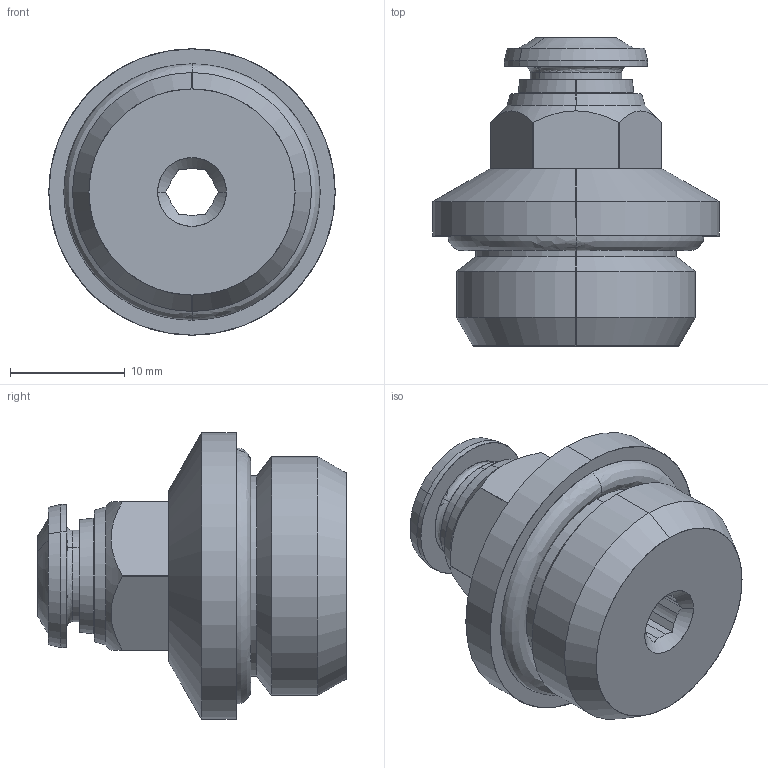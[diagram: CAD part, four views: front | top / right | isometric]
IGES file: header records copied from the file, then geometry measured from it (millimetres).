
Start section: SolidWorks IGES file using analytic representation for surfaces
Global section: file name: K:\Disegni Esecutivi\SERIE 50000\ASSIEMI_50000\50020\IGES e STEP new size\5002000028.IGS; native system: SolidWorks 2020; preprocessor: SolidWorks 2020; author: CAD13; date: 241017.101247; units: millimetre
Bounding box: 25 x 26.9 x 25 mm (x, y, z)
Surface area: 2923.2 mm2 (no closed solid volume)
Topology: 0 solids, 0 shells, 121 faces, 1318 edges, 1318 vertices
Faces by surface type: bspline 67, revolution 54
